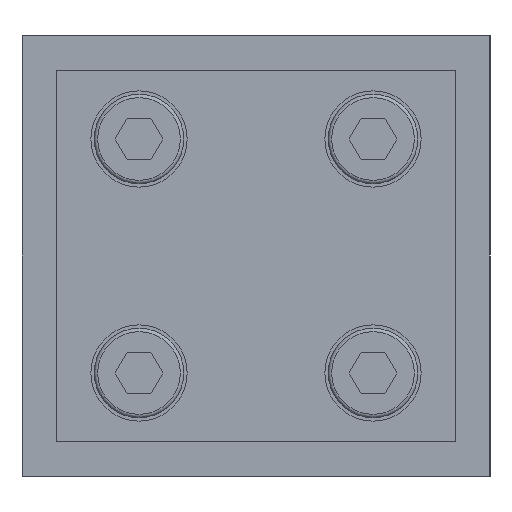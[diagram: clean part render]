
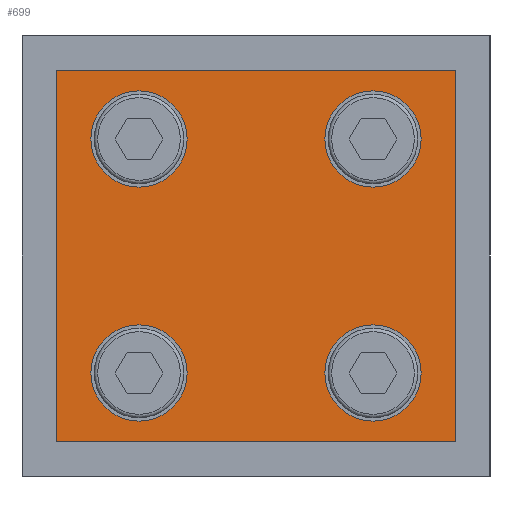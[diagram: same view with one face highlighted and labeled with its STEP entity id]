
A CAD part, left-side view. The second image highlights one B-rep face of the part: STEP entity #699.
In plain terms, the highlighted planar face has unit normal (-1, 0, 0).
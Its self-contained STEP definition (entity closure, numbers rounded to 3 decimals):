
#232=PLANE('',#4253);
#444=FACE_BOUND('',#1228,.T.);
#445=FACE_BOUND('',#1229,.T.);
#446=FACE_BOUND('',#1230,.T.);
#447=FACE_BOUND('',#1231,.T.);
#448=FACE_BOUND('',#1232,.T.);
#699=ADVANCED_FACE('',(#444,#445,#446,#447,#448),#232,.F.);
#1228=EDGE_LOOP('',(#2177));
#1229=EDGE_LOOP('',(#2178));
#1230=EDGE_LOOP('',(#2179));
#1231=EDGE_LOOP('',(#2180));
#1232=EDGE_LOOP('',(#2181,#2182,#2183,#2184));
#1561=CIRCLE('',#4249,7.);
#1562=CIRCLE('',#4250,7.);
#1563=CIRCLE('',#4251,7.);
#1564=CIRCLE('',#4252,7.);
#2177=ORIENTED_EDGE('',*,*,#3253,.T.);
#2178=ORIENTED_EDGE('',*,*,#3254,.T.);
#2179=ORIENTED_EDGE('',*,*,#3255,.T.);
#2180=ORIENTED_EDGE('',*,*,#3256,.T.);
#2181=ORIENTED_EDGE('',*,*,#3243,.F.);
#2182=ORIENTED_EDGE('',*,*,#3252,.F.);
#2183=ORIENTED_EDGE('',*,*,#3249,.F.);
#2184=ORIENTED_EDGE('',*,*,#3246,.F.);
#2807=VERTEX_POINT('',#16449);
#2808=VERTEX_POINT('',#16451);
#2810=VERTEX_POINT('',#16457);
#2812=VERTEX_POINT('',#16463);
#2813=VERTEX_POINT('',#16470);
#2814=VERTEX_POINT('',#16472);
#2815=VERTEX_POINT('',#16474);
#2816=VERTEX_POINT('',#16476);
#3243=EDGE_CURVE('',#2807,#2808,#3592,.T.);
#3246=EDGE_CURVE('',#2808,#2810,#3595,.T.);
#3249=EDGE_CURVE('',#2810,#2812,#3598,.T.);
#3252=EDGE_CURVE('',#2812,#2807,#3601,.T.);
#3253=EDGE_CURVE('',#2813,#2813,#1561,.T.);
#3254=EDGE_CURVE('',#2814,#2814,#1562,.T.);
#3255=EDGE_CURVE('',#2815,#2815,#1563,.T.);
#3256=EDGE_CURVE('',#2816,#2816,#1564,.T.);
#3592=LINE('',#16450,#3877);
#3595=LINE('',#16456,#3880);
#3598=LINE('',#16462,#3883);
#3601=LINE('',#16467,#3886);
#3877=VECTOR('',#4998,1.);
#3880=VECTOR('',#5003,1.);
#3883=VECTOR('',#5008,1.);
#3886=VECTOR('',#5013,1.);
#4249=AXIS2_PLACEMENT_3D('',#16469,#5016,#5017);
#4250=AXIS2_PLACEMENT_3D('',#16471,#5018,#5019);
#4251=AXIS2_PLACEMENT_3D('',#16473,#5020,#5021);
#4252=AXIS2_PLACEMENT_3D('',#16475,#5022,#5023);
#4253=AXIS2_PLACEMENT_3D('',#16477,#5024,#5025);
#4998=DIRECTION('',(0.,0.,-1.));
#5003=DIRECTION('',(0.,1.,0.));
#5008=DIRECTION('',(0.,0.,1.));
#5013=DIRECTION('',(0.,-1.,0.));
#5016=DIRECTION('',(1.,0.,0.));
#5017=DIRECTION('',(0.,1.,0.));
#5018=DIRECTION('',(1.,0.,0.));
#5019=DIRECTION('',(0.,1.,0.));
#5020=DIRECTION('',(1.,0.,0.));
#5021=DIRECTION('',(0.,1.,0.));
#5022=DIRECTION('',(1.,0.,0.));
#5023=DIRECTION('',(0.,1.,0.));
#5024=DIRECTION('',(1.,0.,0.));
#5025=DIRECTION('',(0.,0.,-1.));
#16449=CARTESIAN_POINT('',(-72.,-29.,59.));
#16450=CARTESIAN_POINT('',(-72.,-29.,59.));
#16451=CARTESIAN_POINT('',(-72.,-29.,5.));
#16456=CARTESIAN_POINT('',(-72.,-29.,5.));
#16457=CARTESIAN_POINT('',(-72.,29.,5.));
#16462=CARTESIAN_POINT('',(-72.,29.,5.));
#16463=CARTESIAN_POINT('',(-72.,29.,59.));
#16467=CARTESIAN_POINT('',(-72.,29.,59.));
#16469=CARTESIAN_POINT('',(-72.,-17.,49.));
#16470=CARTESIAN_POINT('',(-72.,-10.,49.));
#16471=CARTESIAN_POINT('',(-72.,17.,49.));
#16472=CARTESIAN_POINT('',(-72.,24.,49.));
#16473=CARTESIAN_POINT('',(-72.,17.,15.));
#16474=CARTESIAN_POINT('',(-72.,24.,15.));
#16475=CARTESIAN_POINT('',(-72.,-17.,15.));
#16476=CARTESIAN_POINT('',(-72.,-10.,15.));
#16477=CARTESIAN_POINT('',(-72.,0.,0.));
